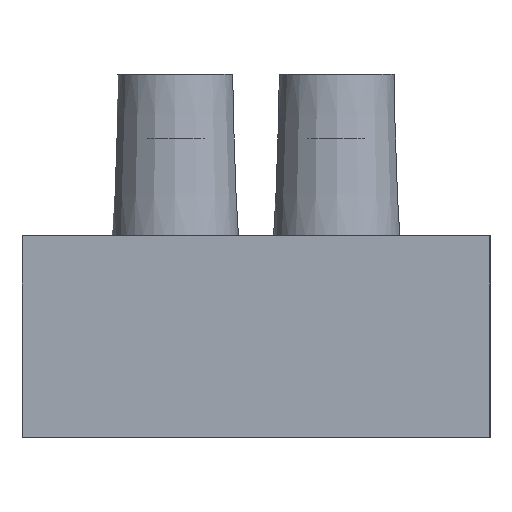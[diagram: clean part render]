
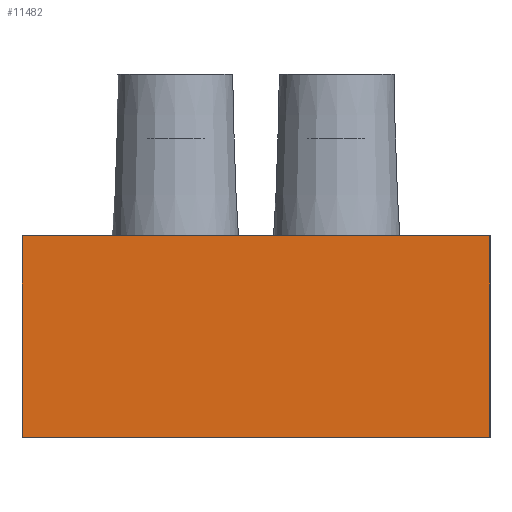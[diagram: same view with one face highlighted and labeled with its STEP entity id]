
A CAD part, left-side view. The second image highlights one B-rep face of the part: STEP entity #11482.
In plain terms, the highlighted planar face has unit normal (-1, 0, 0).
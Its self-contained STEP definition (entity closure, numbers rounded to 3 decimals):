
#376=LINE('',#17376,#1624);
#382=LINE('',#17390,#1630);
#388=LINE('',#17404,#1636);
#395=LINE('',#17424,#1643);
#1624=VECTOR('',#13758,1000.);
#1630=VECTOR('',#13768,1000.);
#1636=VECTOR('',#13778,1000.);
#1643=VECTOR('',#13795,1000.);
#2601=PLANE('',#12228);
#3561=ORIENTED_EDGE('',*,*,#6734,.T.);
#3562=ORIENTED_EDGE('',*,*,#6750,.F.);
#3563=ORIENTED_EDGE('',*,*,#6727,.F.);
#3564=ORIENTED_EDGE('',*,*,#6741,.T.);
#6727=EDGE_CURVE('',#8337,#8338,#376,.T.);
#6734=EDGE_CURVE('',#8343,#8344,#382,.T.);
#6741=EDGE_CURVE('',#8337,#8343,#388,.T.);
#6750=EDGE_CURVE('',#8338,#8344,#395,.T.);
#8337=VERTEX_POINT('',#17377);
#8338=VERTEX_POINT('',#17378);
#8343=VERTEX_POINT('',#17391);
#8344=VERTEX_POINT('',#17392);
#9631=EDGE_LOOP('',(#3561,#3562,#3563,#3564));
#10501=FACE_BOUND('',#9631,.T.);
#11482=ADVANCED_FACE('',(#10501),#2601,.F.);
#12228=AXIS2_PLACEMENT_3D('',#17423,#13793,#13794);
#13758=DIRECTION('',(0.,0.,1.));
#13768=DIRECTION('',(0.,0.,1.));
#13778=DIRECTION('',(0.,-1.,0.));
#13793=DIRECTION('',(1.,0.,0.));
#13794=DIRECTION('',(0.,0.,-1.));
#13795=DIRECTION('',(0.,-1.,0.));
#17376=CARTESIAN_POINT('',(-3.75,23.1,-5.));
#17377=CARTESIAN_POINT('',(-3.75,23.1,-5.));
#17378=CARTESIAN_POINT('',(-3.75,23.1,5.));
#17390=CARTESIAN_POINT('',(-3.75,-0.1,-5.));
#17391=CARTESIAN_POINT('',(-3.75,-0.1,-5.));
#17392=CARTESIAN_POINT('',(-3.75,-0.1,5.));
#17404=CARTESIAN_POINT('',(-3.75,23.,-5.));
#17423=CARTESIAN_POINT('',(-3.75,23.,-5.));
#17424=CARTESIAN_POINT('',(-3.75,23.,5.));
